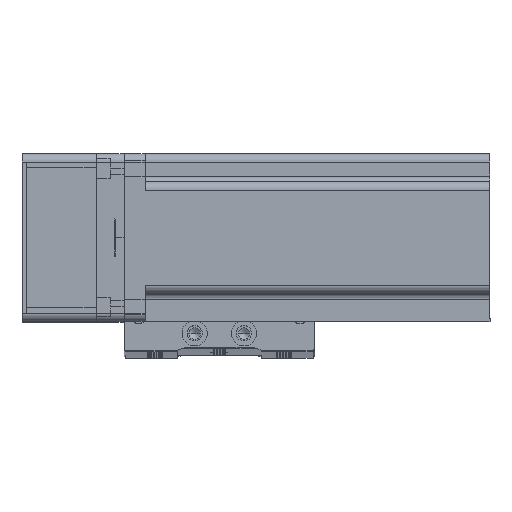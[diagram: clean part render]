
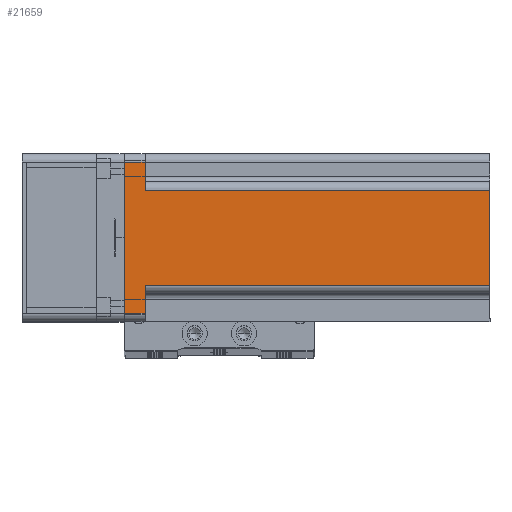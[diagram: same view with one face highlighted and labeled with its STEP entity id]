
A CAD part, top view. The second image highlights one B-rep face of the part: STEP entity #21659.
In plain terms, the highlighted planar face has unit normal (0, 0, 1) as drawn and (0, 1, 0) by its records, which use the part's own axes.
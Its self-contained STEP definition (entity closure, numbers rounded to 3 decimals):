
#2192 = VECTOR ( 'NONE', #12966, 1000. ) ;
#2725 = VECTOR ( 'NONE', #3898, 1000. ) ;
#2794 = FACE_OUTER_BOUND ( 'NONE', #37429, .T. ) ;
#3397 = EDGE_CURVE ( 'NONE', #5475, #19712, #17792, .T. ) ;
#3898 = DIRECTION ( 'NONE',  ( -1., 0., 0. ) ) ;
#4070 = CARTESIAN_POINT ( 'NONE',  ( -27., 30., 0. ) ) ;
#4169 = CARTESIAN_POINT ( 'NONE',  ( 27., 30., 0. ) ) ;
#4298 = VERTEX_POINT ( 'NONE', #44420 ) ;
#5475 = VERTEX_POINT ( 'NONE', #4169 ) ;
#5695 = VERTEX_POINT ( 'NONE', #29818 ) ;
#9218 = EDGE_CURVE ( 'NONE', #5695, #58544, #44998, .T. ) ;
#9257 = VERTEX_POINT ( 'NONE', #42763 ) ;
#9357 = EDGE_CURVE ( 'NONE', #5695, #25793, #13382, .T. ) ;
#12208 = EDGE_CURVE ( 'NONE', #33123, #5475, #39932, .T. ) ;
#12966 = DIRECTION ( 'NONE',  ( 0., 0., 1. ) ) ;
#13382 = LINE ( 'NONE', #34353, #48538 ) ;
#16045 = CARTESIAN_POINT ( 'NONE',  ( -20., 30., 7.5 ) ) ;
#16575 = DIRECTION ( 'NONE',  ( 0., 0., -1. ) ) ;
#17792 = LINE ( 'NONE', #54986, #42239 ) ;
#18359 = ORIENTED_EDGE ( 'NONE', *, *, #52478, .T. ) ;
#19712 = VERTEX_POINT ( 'NONE', #4070 ) ;
#20440 = DIRECTION ( 'NONE',  ( 0., -1., 0. ) ) ;
#20476 = DIRECTION ( 'NONE',  ( 1., 0., 0. ) ) ;
#21659 = ADVANCED_FACE ( 'NONE', ( #2794 ), #56939, .F. ) ;
#23423 = LINE ( 'NONE', #16045, #29867 ) ;
#24123 = DIRECTION ( 'NONE',  ( -1., 0., 0. ) ) ;
#25793 = VERTEX_POINT ( 'NONE', #36410 ) ;
#25995 = ORIENTED_EDGE ( 'NONE', *, *, #3397, .T. ) ;
#26753 = CARTESIAN_POINT ( 'NONE',  ( 20., 30., 7.5 ) ) ;
#27538 = DIRECTION ( 'NONE',  ( -1., 0., 0. ) ) ;
#27847 = LINE ( 'NONE', #50061, #38617 ) ;
#27850 = ORIENTED_EDGE ( 'NONE', *, *, #54258, .T. ) ;
#29818 = CARTESIAN_POINT ( 'NONE',  ( 17., 30., 130.7 ) ) ;
#29867 = VECTOR ( 'NONE', #20476, 1000. ) ;
#32811 = VECTOR ( 'NONE', #24123, 1000. ) ;
#33123 = VERTEX_POINT ( 'NONE', #40015 ) ;
#34353 = CARTESIAN_POINT ( 'NONE',  ( 17., 30., 130.7 ) ) ;
#34510 = CARTESIAN_POINT ( 'NONE',  ( 27., 30., 130.7 ) ) ;
#35204 = ORIENTED_EDGE ( 'NONE', *, *, #12208, .T. ) ;
#35735 = EDGE_CURVE ( 'NONE', #4298, #58544, #27847, .T. ) ;
#36410 = CARTESIAN_POINT ( 'NONE',  ( 17., 30., 7.5 ) ) ;
#37370 = LINE ( 'NONE', #40514, #2192 ) ;
#37429 = EDGE_LOOP ( 'NONE', ( #18359, #40088, #47632, #40261, #50533, #35204, #25995, #27850 ) ) ;
#38617 = VECTOR ( 'NONE', #50461, 1000. ) ;
#39359 = LINE ( 'NONE', #26753, #2725 ) ;
#39932 = LINE ( 'NONE', #34510, #50687 ) ;
#40015 = CARTESIAN_POINT ( 'NONE',  ( 27., 30., 7.5 ) ) ;
#40088 = ORIENTED_EDGE ( 'NONE', *, *, #35735, .T. ) ;
#40261 = ORIENTED_EDGE ( 'NONE', *, *, #9357, .T. ) ;
#40514 = CARTESIAN_POINT ( 'NONE',  ( -27., 30., 130.7 ) ) ;
#42239 = VECTOR ( 'NONE', #27538, 1000. ) ;
#42763 = CARTESIAN_POINT ( 'NONE',  ( -27., 30., 7.5 ) ) ;
#44420 = CARTESIAN_POINT ( 'NONE',  ( -17., 30., 7.5 ) ) ;
#44998 = LINE ( 'NONE', #46960, #32811 ) ;
#45915 = AXIS2_PLACEMENT_3D ( 'NONE', #47936, #20440, #52562 ) ;
#46655 = CARTESIAN_POINT ( 'NONE',  ( -17., 30., 130.7 ) ) ;
#46960 = CARTESIAN_POINT ( 'NONE',  ( 30., 30., 130.7 ) ) ;
#47632 = ORIENTED_EDGE ( 'NONE', *, *, #9218, .F. ) ;
#47936 = CARTESIAN_POINT ( 'NONE',  ( 30., 30., 130.7 ) ) ;
#48151 = DIRECTION ( 'NONE',  ( 0., 0., -1. ) ) ;
#48538 = VECTOR ( 'NONE', #48151, 1000. ) ;
#50061 = CARTESIAN_POINT ( 'NONE',  ( -17., 30., 130.7 ) ) ;
#50461 = DIRECTION ( 'NONE',  ( 0., 0., 1. ) ) ;
#50533 = ORIENTED_EDGE ( 'NONE', *, *, #51352, .F. ) ;
#50687 = VECTOR ( 'NONE', #16575, 1000. ) ;
#51352 = EDGE_CURVE ( 'NONE', #33123, #25793, #39359, .T. ) ;
#52478 = EDGE_CURVE ( 'NONE', #9257, #4298, #23423, .T. ) ;
#52562 = DIRECTION ( 'NONE',  ( 1., 0., 0. ) ) ;
#54258 = EDGE_CURVE ( 'NONE', #19712, #9257, #37370, .T. ) ;
#54986 = CARTESIAN_POINT ( 'NONE',  ( 30., 30., 0. ) ) ;
#56939 = PLANE ( 'NONE',  #45915 ) ;
#58544 = VERTEX_POINT ( 'NONE', #46655 ) ;
